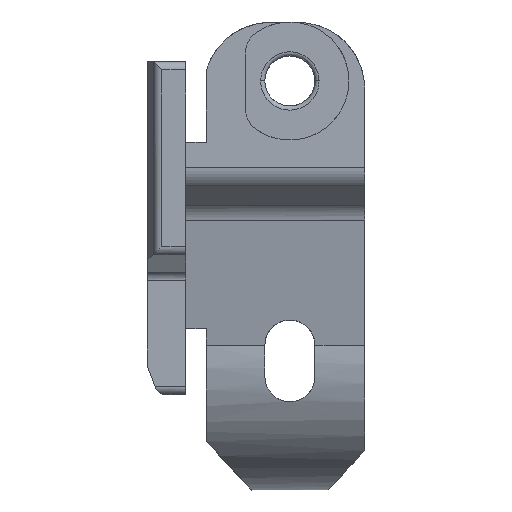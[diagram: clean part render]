
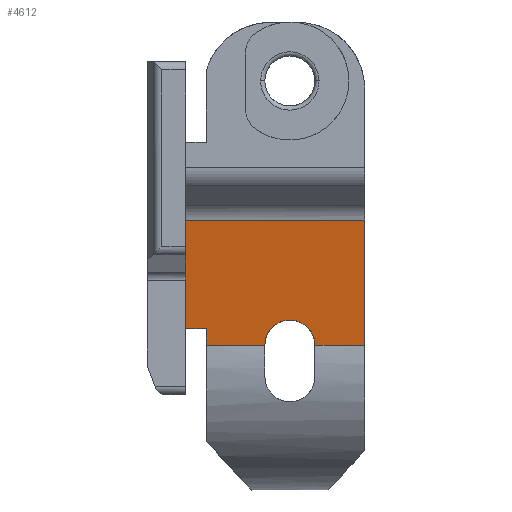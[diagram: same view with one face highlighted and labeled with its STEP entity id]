
A CAD part, left-side view. The second image highlights one B-rep face of the part: STEP entity #4612.
In plain terms, the highlighted planar face has unit normal (-0.986, 0, -0.165).
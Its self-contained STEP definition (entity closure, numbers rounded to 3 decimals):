
#1209 = EDGE_CURVE ( 'NONE', #1210, #1211, #3416, .T. ) ;
#1210 = VERTEX_POINT ( 'NONE', #3412 ) ;
#1211 = VERTEX_POINT ( 'NONE', #3411 ) ;
#1609 = VERTEX_POINT ( 'NONE', #5737 ) ;
#1655 = VERTEX_POINT ( 'NONE', #5740 ) ;
#1679 = EDGE_CURVE ( 'NONE', #1655, #1609, #5849, .T. ) ;
#3411 = CARTESIAN_POINT ( 'NONE',  ( -38.898, -10.515, -173.62 ) ) ;
#3412 = CARTESIAN_POINT ( 'NONE',  ( -38.894, -10.515, -173.643 ) ) ;
#3413 = DIRECTION ( 'NONE',  ( -0.165, 0., 0.986 ) ) ;
#3414 = VECTOR ( 'NONE', #3413, 1000. ) ;
#3415 = CARTESIAN_POINT ( 'NONE',  ( -38.894, -10.515, -173.643 ) ) ;
#3416 = LINE ( 'NONE', #3415, #3414 ) ;
#4141 = EDGE_CURVE ( 'NONE', #4142, #1210, #6570, .T. ) ;
#4142 = VERTEX_POINT ( 'NONE', #6591 ) ;
#4154 = VERTEX_POINT ( 'NONE', #6817 ) ;
#4156 = EDGE_CURVE ( 'NONE', #1609, #4154, #6816, .T. ) ;
#4234 = EDGE_CURVE ( 'NONE', #1211, #1655, #6835, .T. ) ;
#4302 = EDGE_CURVE ( 'NONE', #4303, #4142, #7264, .T. ) ;
#4303 = VERTEX_POINT ( 'NONE', #7260 ) ;
#4355 = VERTEX_POINT ( 'NONE', #7372 ) ;
#4357 = EDGE_CURVE ( 'NONE', #4154, #4355, #7365, .T. ) ;
#4609 = VERTEX_POINT ( 'NONE', #8205 ) ;
#4611 = EDGE_CURVE ( 'NONE', #4355, #4609, #8204, .T. ) ;
#4612 = ADVANCED_FACE ( 'NONE', ( #8200 ), #8199, .T. ) ;
#4613 = EDGE_LOOP ( 'NONE', ( #4614, #4615, #4650, #4651, #4652, #4653, #4654, #4655, #4656, #4657 ) ) ;
#4614 = ORIENTED_EDGE ( 'NONE', *, *, #4611, .T. ) ;
#4615 = ORIENTED_EDGE ( 'NONE', *, *, #4649, .T. ) ;
#4649 = EDGE_CURVE ( 'NONE', #4609, #4856, #8138, .T. ) ;
#4650 = ORIENTED_EDGE ( 'NONE', *, *, #4855, .T. ) ;
#4651 = ORIENTED_EDGE ( 'NONE', *, *, #4302, .T. ) ;
#4652 = ORIENTED_EDGE ( 'NONE', *, *, #4141, .T. ) ;
#4653 = ORIENTED_EDGE ( 'NONE', *, *, #1209, .T. ) ;
#4654 = ORIENTED_EDGE ( 'NONE', *, *, #4234, .T. ) ;
#4655 = ORIENTED_EDGE ( 'NONE', *, *, #1679, .T. ) ;
#4656 = ORIENTED_EDGE ( 'NONE', *, *, #4156, .T. ) ;
#4657 = ORIENTED_EDGE ( 'NONE', *, *, #4357, .T. ) ;
#4855 = EDGE_CURVE ( 'NONE', #4856, #4303, #8665, .T. ) ;
#4856 = VERTEX_POINT ( 'NONE', #8661 ) ;
#5514 = CARTESIAN_POINT ( 'NONE',  ( -39.146, -10.878, -172.131 ) ) ;
#5515 = CARTESIAN_POINT ( 'NONE',  ( -39.078, -10.716, -172.54 ) ) ;
#5737 = CARTESIAN_POINT ( 'NONE',  ( -38.894, -16.515, -173.643 ) ) ;
#5740 = CARTESIAN_POINT ( 'NONE',  ( -38.898, -16.515, -173.62 ) ) ;
#5846 = DIRECTION ( 'NONE',  ( 0.165, 0., -0.986 ) ) ;
#5847 = VECTOR ( 'NONE', #5846, 1000. ) ;
#5848 = CARTESIAN_POINT ( 'NONE',  ( -38.898, -16.515, -173.62 ) ) ;
#5849 = LINE ( 'NONE', #5848, #5847 ) ;
#6567 = DIRECTION ( 'NONE',  ( 0., -1., 0. ) ) ;
#6568 = VECTOR ( 'NONE', #6567, 1000. ) ;
#6569 = CARTESIAN_POINT ( 'NONE',  ( -38.894, -22.5, -173.643 ) ) ;
#6570 = LINE ( 'NONE', #6569, #6568 ) ;
#6588 = CARTESIAN_POINT ( 'NONE',  ( -39.308, -11.777, -171.159 ) ) ;
#6589 = CARTESIAN_POINT ( 'NONE',  ( -39.276, -11.54, -171.352 ) ) ;
#6590 = CARTESIAN_POINT ( 'NONE',  ( -39.203, -11.101, -171.791 ) ) ;
#6591 = CARTESIAN_POINT ( 'NONE',  ( -38.894, -3.5, -173.643 ) ) ;
#6803 = DIRECTION ( 'NONE',  ( 0., -1., 0. ) ) ;
#6814 = VECTOR ( 'NONE', #6803, 1000. ) ;
#6815 = CARTESIAN_POINT ( 'NONE',  ( -38.894, -22.5, -173.643 ) ) ;
#6816 = LINE ( 'NONE', #6815, #6814 ) ;
#6817 = CARTESIAN_POINT ( 'NONE',  ( -38.894, -22.5, -173.643 ) ) ;
#6826 = CARTESIAN_POINT ( 'NONE',  ( -39.075, -10.708, -172.56 ) ) ;
#6827 = CARTESIAN_POINT ( 'NONE',  ( -39.067, -10.692, -172.605 ) ) ;
#6828 = CARTESIAN_POINT ( 'NONE',  ( -39.056, -10.668, -172.672 ) ) ;
#6829 = CARTESIAN_POINT ( 'NONE',  ( -39.03, -10.618, -172.829 ) ) ;
#6830 = CARTESIAN_POINT ( 'NONE',  ( -38.976, -10.541, -173.148 ) ) ;
#6831 = CARTESIAN_POINT ( 'NONE',  ( -38.93, -10.515, -173.429 ) ) ;
#6832 = CARTESIAN_POINT ( 'NONE',  ( -38.898, -10.515, -173.62 ) ) ;
#6835 = B_SPLINE_CURVE_WITH_KNOTS ( 'NONE', 3,
 ( #6832, #6831, #6830, #6829, #6828, #6827, #6826, #5515, #5514, #6590, #6589, #6588, #7161, #7131, #7130, #7129, #7128, #7127, #7126, #7125, #7195, #7194, #7193, #7192, #7191, #7190, #7189, #7188, #7187, #7160, #7159, #7158, #7157, #7156, #7155, #7154, #7153, #7152 ),
 .UNSPECIFIED., .F., .F.,
 ( 4, 1, 1, 1, 2, 2, 2, 1, 1, 1, 2, 2, 2, 1, 1, 1, 2, 2, 2, 1, 1, 1, 2, 2, 4 ),
 ( 0., 0.063, 0.094, 0.109, 0.117, 0.125, 0.25, 0.313, 0.344, 0.359, 0.367, 0.375, 0.5, 0.563, 0.594, 0.609, 0.617, 0.625, 0.75, 0.813, 0.844, 0.859, 0.867, 0.875, 1. ),
 .UNSPECIFIED. ) ;
#7125 = CARTESIAN_POINT ( 'NONE',  ( -39.398, -13.706, -170.62 ) ) ;
#7126 = CARTESIAN_POINT ( 'NONE',  ( -39.398, -13.134, -170.62 ) ) ;
#7127 = CARTESIAN_POINT ( 'NONE',  ( -39.387, -12.765, -170.69 ) ) ;
#7128 = CARTESIAN_POINT ( 'NONE',  ( -39.362, -12.389, -170.839 ) ) ;
#7129 = CARTESIAN_POINT ( 'NONE',  ( -39.36, -12.363, -170.85 ) ) ;
#7130 = CARTESIAN_POINT ( 'NONE',  ( -39.357, -12.315, -170.87 ) ) ;
#7131 = CARTESIAN_POINT ( 'NONE',  ( -39.351, -12.245, -170.901 ) ) ;
#7152 = CARTESIAN_POINT ( 'NONE',  ( -38.898, -16.515, -173.62 ) ) ;
#7153 = CARTESIAN_POINT ( 'NONE',  ( -38.961, -16.515, -173.238 ) ) ;
#7154 = CARTESIAN_POINT ( 'NONE',  ( -39.023, -16.445, -172.87 ) ) ;
#7155 = CARTESIAN_POINT ( 'NONE',  ( -39.086, -16.296, -172.494 ) ) ;
#7156 = CARTESIAN_POINT ( 'NONE',  ( -39.09, -16.285, -172.468 ) ) ;
#7157 = CARTESIAN_POINT ( 'NONE',  ( -39.098, -16.265, -172.42 ) ) ;
#7158 = CARTESIAN_POINT ( 'NONE',  ( -39.11, -16.234, -172.35 ) ) ;
#7159 = CARTESIAN_POINT ( 'NONE',  ( -39.137, -16.155, -172.189 ) ) ;
#7160 = CARTESIAN_POINT ( 'NONE',  ( -39.188, -15.976, -171.882 ) ) ;
#7161 = CARTESIAN_POINT ( 'NONE',  ( -39.338, -12.084, -170.98 ) ) ;
#7187 = CARTESIAN_POINT ( 'NONE',  ( -39.227, -15.783, -171.645 ) ) ;
#7188 = CARTESIAN_POINT ( 'NONE',  ( -39.301, -15.344, -171.206 ) ) ;
#7189 = CARTESIAN_POINT ( 'NONE',  ( -39.338, -15.004, -170.983 ) ) ;
#7190 = CARTESIAN_POINT ( 'NONE',  ( -39.365, -14.595, -170.821 ) ) ;
#7191 = CARTESIAN_POINT ( 'NONE',  ( -39.366, -14.575, -170.813 ) ) ;
#7192 = CARTESIAN_POINT ( 'NONE',  ( -39.369, -14.53, -170.797 ) ) ;
#7193 = CARTESIAN_POINT ( 'NONE',  ( -39.373, -14.463, -170.773 ) ) ;
#7194 = CARTESIAN_POINT ( 'NONE',  ( -39.381, -14.306, -170.723 ) ) ;
#7195 = CARTESIAN_POINT ( 'NONE',  ( -39.394, -13.987, -170.646 ) ) ;
#7260 = CARTESIAN_POINT ( 'NONE',  ( -39.227, -3.5, -171.644 ) ) ;
#7261 = DIRECTION ( 'NONE',  ( 0.165, 0., -0.986 ) ) ;
#7262 = VECTOR ( 'NONE', #7261, 1000. ) ;
#7263 = CARTESIAN_POINT ( 'NONE',  ( -41.4, -3.5, -158.627 ) ) ;
#7264 = LINE ( 'NONE', #7263, #7262 ) ;
#7362 = DIRECTION ( 'NONE',  ( -0.165, 0., 0.986 ) ) ;
#7363 = VECTOR ( 'NONE', #7362, 1000. ) ;
#7364 = CARTESIAN_POINT ( 'NONE',  ( -41.4, -22.5, -158.627 ) ) ;
#7365 = LINE ( 'NONE', #7364, #7363 ) ;
#7372 = CARTESIAN_POINT ( 'NONE',  ( -41.4, -22.5, -158.627 ) ) ;
#8135 = DIRECTION ( 'NONE',  ( 0.165, 0., -0.986 ) ) ;
#8136 = VECTOR ( 'NONE', #8135, 1000. ) ;
#8137 = CARTESIAN_POINT ( 'NONE',  ( -41.4, -1., -158.627 ) ) ;
#8138 = LINE ( 'NONE', #8137, #8136 ) ;
#8195 = DIRECTION ( 'NONE',  ( -0.165, 0., 0.986 ) ) ;
#8196 = DIRECTION ( 'NONE',  ( -0.986, 0., -0.165 ) ) ;
#8197 = AXIS2_PLACEMENT_3D ( 'NONE', #8198, #8196, #8195 ) ;
#8198 = CARTESIAN_POINT ( 'NONE',  ( -41.4, -22.5, -158.627 ) ) ;
#8199 = PLANE ( 'NONE',  #8197 ) ;
#8200 = FACE_OUTER_BOUND ( 'NONE', #4613, .T. ) ;
#8201 = DIRECTION ( 'NONE',  ( 0., 1., 0. ) ) ;
#8202 = VECTOR ( 'NONE', #8201, 1000. ) ;
#8203 = CARTESIAN_POINT ( 'NONE',  ( -41.4, -22.5, -158.627 ) ) ;
#8204 = LINE ( 'NONE', #8203, #8202 ) ;
#8205 = CARTESIAN_POINT ( 'NONE',  ( -41.4, -1., -158.627 ) ) ;
#8661 = CARTESIAN_POINT ( 'NONE',  ( -39.227, -1., -171.644 ) ) ;
#8662 = DIRECTION ( 'NONE',  ( 0., -1., 0. ) ) ;
#8663 = VECTOR ( 'NONE', #8662, 1000. ) ;
#8664 = CARTESIAN_POINT ( 'NONE',  ( -39.227, -22.5, -171.644 ) ) ;
#8665 = LINE ( 'NONE', #8664, #8663 ) ;
